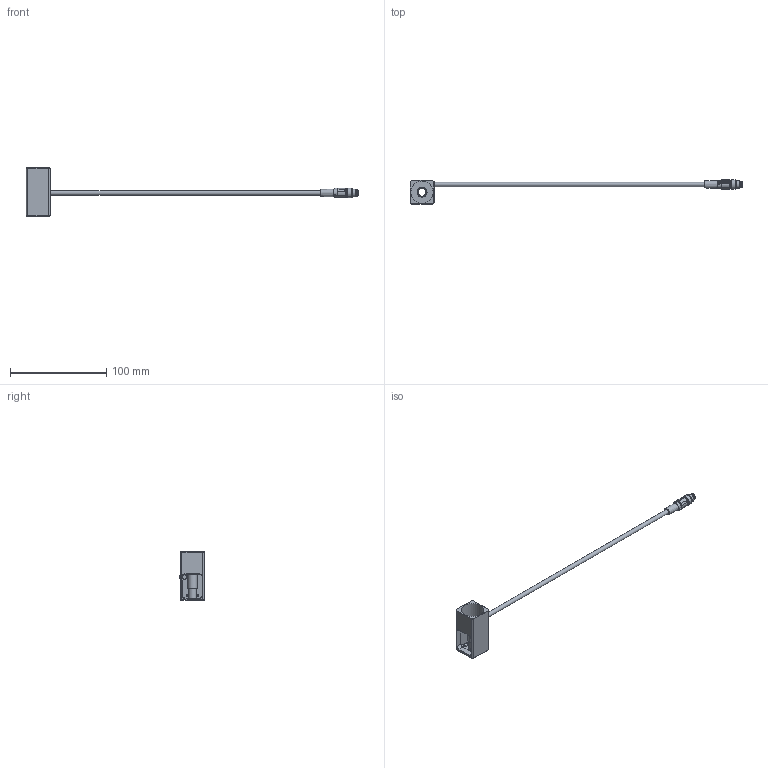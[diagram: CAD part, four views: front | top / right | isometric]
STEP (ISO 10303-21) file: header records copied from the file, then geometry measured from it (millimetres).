
FILE_DESCRIPTION (( 'STEP AP214' ), '1' );
FILE_NAME ('DAV-HEATER-DAS.STEP', '2024-10-14T09:24:57', ( '' ), ( '' ), 'SwSTEP 2.0', 'SolidWorks 2024', '' );
FILE_SCHEMA (( 'AUTOMOTIVE_DESIGN' ));
Length unit declared in the file: millimetre
Products named in the file (1): DAV-HEATER-DAS
Bounding box: 344.7 x 25.44 x 50 mm (x, y, z)
Volume: 23103.1 mm3; surface area: 14889.8 mm2
Topology: 2 solids, 2 shells, 151 faces, 352 edges, 223 vertices
Faces by surface type: plane 79, cylinder 50, cone 22
Full cylindrical faces by diameter (mm): 1 x5, 2.5 x2, 3.3 x1, 4.5 x1, 5 x1, 5.9 x1, 8 x3, 9.3 x2, 9.9 x1, 10 x1, 23.1 x1
Entity records: 4212 total; most frequent: CARTESIAN_POINT 881, DIRECTION 696, ORIENTED_EDGE 622, EDGE_CURVE 311, AXIS2_PLACEMENT_3D 269, VERTEX_POINT 212, EDGE_LOOP 205, FACE_OUTER_BOUND 170
